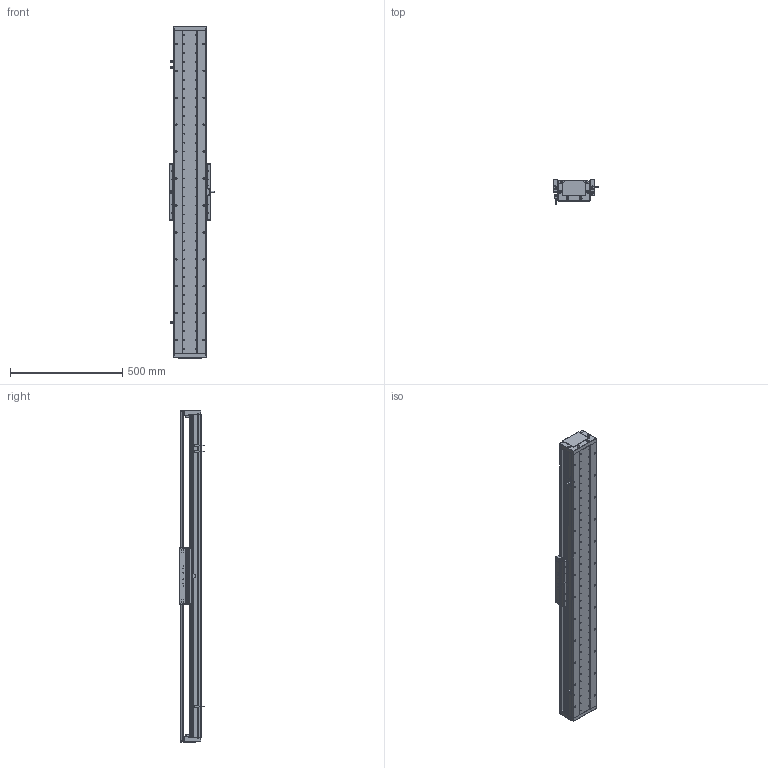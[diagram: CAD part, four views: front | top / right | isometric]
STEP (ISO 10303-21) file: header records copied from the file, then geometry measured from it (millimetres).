
FILE_DESCRIPTION (( 'STEP AP203' ), '1' );
FILE_NAME ('DA-C145-C3-T1140-C010-0.2 眻盄萇儂.STEP', '2025-08-14T01:22:34', ( '' ), ( '' ), 'SwSTEP 2.0', 'SolidWorks 2019', '' );
FILE_SCHEMA (( 'CONFIG_CONTROL_DESIGN' ));
Length unit declared in the file: millimetre
Products named in the file (29): 葩璃 DA95-GT-T-00^IU-CU145-L 菁釱絳寢; 葩璃 DA145-DG-H-N-00 傷裔^DA-C145-C3-T-C010-0.2; 复件 DA145-C3-YB-B-00 压板B^CU145-W 滚珠滑台; 66245-CU145-HT-W-00 賑雄怢啣(3D芞祧)(00); 葩璃 XD-U-02L 棠掑喜^DA-C145-C3-T-C010-0.2; 葩璃 鞠褒情蹟譫 M3^DA-C145-C3-T-C010-0.2; 葩璃 DA95-HXJ-00 遣喳砎蝶^DA-C145-C3-T-C010-0.2; 复件 DA95-HK-GT-00 滑块钢轨^CU145-W-00 一体化滑动台板; 复件 DA145-C3-DK-00 挡块^CU145-W 滚珠滑台; 葩璃 DA145-C3-DP-B-00 菜えB^CU145-W 幗紩賑怢; 葩璃 DMA-010-0.2 黍杅芛^DA-C145-C3-T-C010-0.2; 复件 半圆头内六角螺钉 M3×6^CU145-W 滚珠滑台; DA-C145-C3-T1140-C010-0.2 眻盄萇儂; CU145-W 幗紩賑怢; 复件 内六角平端紧定螺钉 GB.T77-2000 M5×10^CU145-W 滚珠滑台; 复件 DA145-C3-YB-A-00 压板A^CU145-W 滚珠滑台; 葩璃 DA145-T-003-00 裔啣^DA-C145-C3-T-C010-0.2; 复件 DA145-GYP-00 光电感应片^DA-C145-C3-T-C010-0.2; 葩璃 CKM03-W060-C1C2-TP-0.2^DA-C145-C3-T-C010-0.2; IU-CU145-L-00 菁釱(L1440); CU145-W-00 珨极趙賑雄怢啣; IU-CU145-L 菁釱絳寢; 葩璃 PM-T45^DA-C145-C3-T-C010-0.2; 复件 DA95-DB-00  挡板^CU145-W 滚珠滑台; 复件 DA95-MFP-01 密封片^CU145-W 滚珠滑台; 葩璃 CKMA01-W060-TRL^DA-C145-C3-T-C010-0.2; 复件 纯铜油杯 6x6mm^CU145-W 滚珠滑台; 葩璃 DA145-C3-DP-A-00 菜えA^CU145-W 幗紩賑怢; TAY01-M8
Assembly tree (98 placements, depth 4):
  DA-C145-C3-T1140-C010-0.2 眻盄萇儂
    IU-CU145-L 菁釱絳寢
      IU-CU145-L-00 菁釱(L1440)
      葩璃 DA95-GT-T-00^IU-CU145-L 菁釱絳寢  x4
    CU145-W 幗紩賑怢
      CU145-W-00 珨极趙賑雄怢啣
        66245-CU145-HT-W-00 賑雄怢啣(3D芞祧)(00)
        复件 DA95-HK-GT-00 滑块钢轨^CU145-W-00 一体化滑动台板  x8
      复件 DA95-MFP-01 密封片^CU145-W 滚珠滑台  x8
      复件 DA95-DB-00  挡板^CU145-W 滚珠滑台  x8
      复件 内六角平端紧定螺钉 GB.T77-2000 M5×10^CU145-W 滚珠滑台  x4
      复件 纯铜油杯 6x6mm^CU145-W 滚珠滑台  x4
      复件 半圆头内六角螺钉 M3×6^CU145-W 滚珠滑台  x16
      复件 DA145-C3-DK-00 挡块^CU145-W 滚珠滑台  x4
      葩璃 DA145-C3-DP-B-00 菜えB^CU145-W 幗紩賑怢  x2
      复件 DA145-C3-YB-B-00 压板B^CU145-W 滚珠滑台  x2
      葩璃 DA145-C3-DP-A-00 菜えA^CU145-W 幗紩賑怢  x3
      复件 DA145-C3-YB-A-00 压板A^CU145-W 滚珠滑台  x3
      TAY01-M8  x4
    葩璃 CKMA01-W060-TRL^DA-C145-C3-T-C010-0.2
    葩璃 PM-T45^DA-C145-C3-T-C010-0.2  x3
    葩璃 XD-U-02L 棠掑喜^DA-C145-C3-T-C010-0.2
    葩璃 DA145-DG-H-N-00 傷裔^DA-C145-C3-T-C010-0.2  x2
    葩璃 DA145-T-003-00 裔啣^DA-C145-C3-T-C010-0.2
    葩璃 DA95-HXJ-00 遣喳砎蝶^DA-C145-C3-T-C010-0.2  x4
    复件 DA145-GYP-00 光电感应片^DA-C145-C3-T-C010-0.2
    葩璃 DMA-010-0.2 黍杅芛^DA-C145-C3-T-C010-0.2
    葩璃 CKM03-W060-C1C2-TP-0.2^DA-C145-C3-T-C010-0.2
    葩璃 鞠褒情蹟譫 M3^DA-C145-C3-T-C010-0.2  x8
Bounding box: 203.5 x 108.45 x 1480 mm (x, y, z)
Volume: 8898994.3 mm3; surface area: 2687079.6 mm2
Topology: 95 solids, 127 shells, 4114 faces, 11193 edges, 6940 vertices
Faces by surface type: cylinder 1817, plane 1581, cone 626, torus 86, sphere 4
Entity records: 100555 total; most frequent: CARTESIAN_POINT 26844, ORIENTED_EDGE 14384, DIRECTION 14343, EDGE_CURVE 7192, AXIS2_PLACEMENT_3D 5348, VERTEX_POINT 4629, LINE 3647, VECTOR 3647
